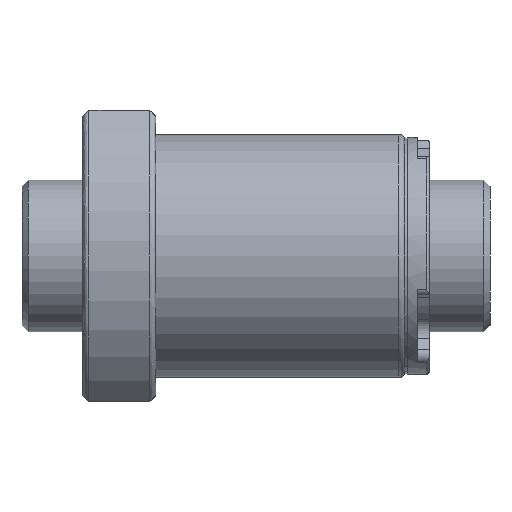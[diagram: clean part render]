
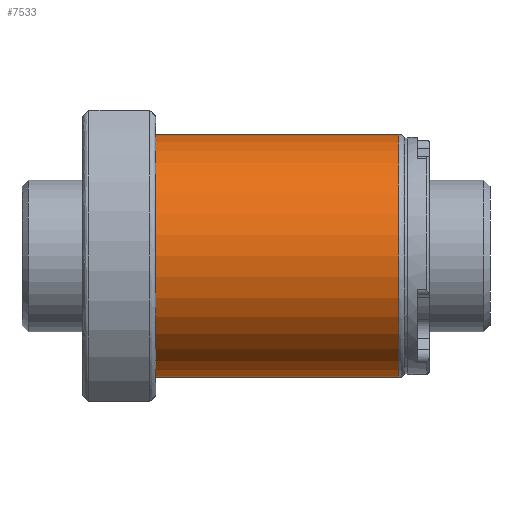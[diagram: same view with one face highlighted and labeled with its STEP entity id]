
A CAD part, front view. The second image highlights one B-rep face of the part: STEP entity #7533.
In plain terms, the highlighted cylindrical face has radius 20 mm (diameter 40 mm), a partial arc.
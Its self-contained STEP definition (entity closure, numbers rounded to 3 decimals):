
#151 = DIRECTION ( 'NONE',  ( -1., 0., 0. ) ) ;
#284 = DIRECTION ( 'NONE',  ( -1., 0., 0. ) ) ;
#669 = EDGE_CURVE ( 'NONE', #916, #5564, #7932, .T. ) ;
#916 = VERTEX_POINT ( 'NONE', #4098 ) ;
#1354 = DIRECTION ( 'NONE',  ( 1., 0., 0. ) ) ;
#1770 = DIRECTION ( 'NONE',  ( 0., 0., 1. ) ) ;
#2080 = FACE_OUTER_BOUND ( 'NONE', #4365, .T. ) ;
#2870 = CIRCLE ( 'NONE', #4001, 20. ) ;
#2963 = EDGE_CURVE ( 'NONE', #4590, #6123, #5971, .T. ) ;
#3409 = DIRECTION ( 'NONE',  ( 0., 0., 1. ) ) ;
#3531 = DIRECTION ( 'NONE',  ( 0., 0., 1. ) ) ;
#3797 = AXIS2_PLACEMENT_3D ( 'NONE', #5393, #1354, #3409 ) ;
#3949 = DIRECTION ( 'NONE',  ( -1., 0., 0. ) ) ;
#4001 = AXIS2_PLACEMENT_3D ( 'NONE', #7589, #4832, #3531 ) ;
#4098 = CARTESIAN_POINT ( 'NONE',  ( 52., 0., -20. ) ) ;
#4278 = CARTESIAN_POINT ( 'NONE',  ( 12., 0., -20. ) ) ;
#4358 = VECTOR ( 'NONE', #151, 1000. ) ;
#4365 = EDGE_LOOP ( 'NONE', ( #6466, #7011, #7851, #6577 ) ) ;
#4453 = CARTESIAN_POINT ( 'NONE',  ( 0., 0., 20. ) ) ;
#4518 = CARTESIAN_POINT ( 'NONE',  ( 0., 0., -20. ) ) ;
#4590 = VERTEX_POINT ( 'NONE', #8226 ) ;
#4832 = DIRECTION ( 'NONE',  ( -1., 0., 0. ) ) ;
#5263 = CARTESIAN_POINT ( 'NONE',  ( 0., 0., 0. ) ) ;
#5393 = CARTESIAN_POINT ( 'NONE',  ( 12., 0., 0. ) ) ;
#5564 = VERTEX_POINT ( 'NONE', #4278 ) ;
#5908 = AXIS2_PLACEMENT_3D ( 'NONE', #5263, #3949, #1770 ) ;
#5971 = LINE ( 'NONE', #4453, #4358 ) ;
#6123 = VERTEX_POINT ( 'NONE', #8943 ) ;
#6143 = EDGE_CURVE ( 'NONE', #916, #4590, #2870, .T. ) ;
#6218 = VECTOR ( 'NONE', #284, 1000. ) ;
#6466 = ORIENTED_EDGE ( 'NONE', *, *, #669, .F. ) ;
#6577 = ORIENTED_EDGE ( 'NONE', *, *, #8609, .T. ) ;
#7011 = ORIENTED_EDGE ( 'NONE', *, *, #6143, .T. ) ;
#7155 = CYLINDRICAL_SURFACE ( 'NONE', #5908, 20. ) ;
#7533 = ADVANCED_FACE ( 'NONE', ( #2080 ), #7155, .T. ) ;
#7589 = CARTESIAN_POINT ( 'NONE',  ( 52., 0., 0. ) ) ;
#7851 = ORIENTED_EDGE ( 'NONE', *, *, #2963, .T. ) ;
#7932 = LINE ( 'NONE', #4518, #6218 ) ;
#8199 = CIRCLE ( 'NONE', #3797, 20. ) ;
#8226 = CARTESIAN_POINT ( 'NONE',  ( 52., 0., 20. ) ) ;
#8609 = EDGE_CURVE ( 'NONE', #6123, #5564, #8199, .T. ) ;
#8943 = CARTESIAN_POINT ( 'NONE',  ( 12., 0., 20. ) ) ;
